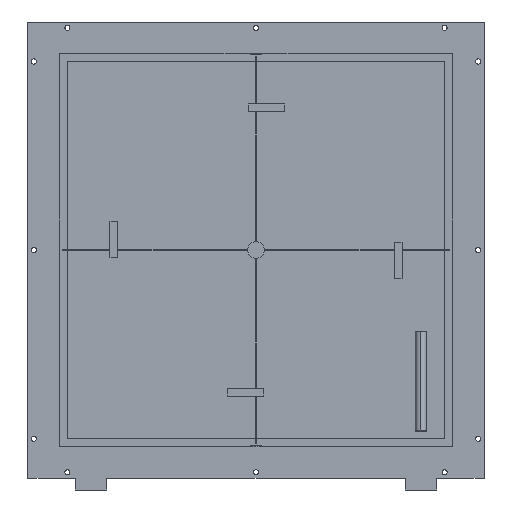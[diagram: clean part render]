
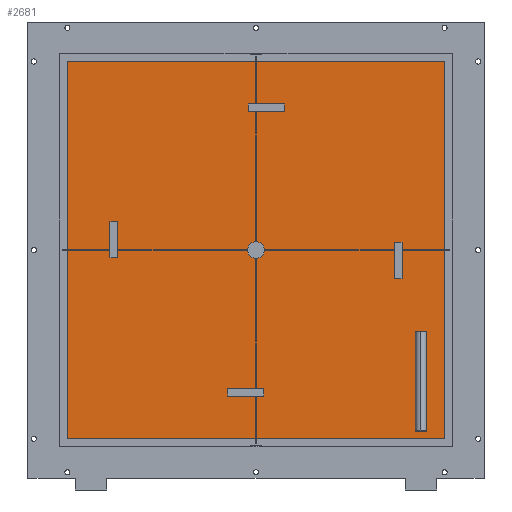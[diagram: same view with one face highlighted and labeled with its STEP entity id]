
A CAD part, front view. The second image highlights one B-rep face of the part: STEP entity #2681.
In plain terms, the highlighted planar face has unit normal (0, -1, 0).
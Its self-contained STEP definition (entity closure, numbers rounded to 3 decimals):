
#204=DIRECTION('',(0.,0.,-1.));
#205=VECTOR('',#204,1036.);
#206=CARTESIAN_POINT('',(518.,77.,518.));
#207=LINE('',#206,#205);
#212=CARTESIAN_POINT('',(0.,77.,0.));
#213=DIRECTION('',(0.,1.,0.));
#214=DIRECTION('',(0.,0.,1.));
#215=AXIS2_PLACEMENT_3D('',#212,#213,#214);
#217=CARTESIAN_POINT('',(0.,77.,0.));
#218=DIRECTION('',(0.,1.,0.));
#219=DIRECTION('',(0.,0.,-1.));
#220=AXIS2_PLACEMENT_3D('',#217,#218,#219);
#222=DIRECTION('',(0.,0.,-1.));
#223=VECTOR('',#222,92.);
#224=CARTESIAN_POINT('',(-370.,77.,72.));
#225=LINE('',#224,#223);
#226=DIRECTION('',(1.,0.,0.));
#227=VECTOR('',#226,20.);
#228=CARTESIAN_POINT('',(-370.,77.,-20.));
#229=LINE('',#228,#227);
#230=DIRECTION('',(0.,0.,1.));
#231=VECTOR('',#230,92.);
#232=CARTESIAN_POINT('',(-350.,77.,-20.));
#233=LINE('',#232,#231);
#234=DIRECTION('',(-1.,0.,0.));
#235=VECTOR('',#234,20.);
#236=CARTESIAN_POINT('',(-350.,77.,72.));
#237=LINE('',#236,#235);
#238=DIRECTION('',(0.,0.,-1.));
#239=VECTOR('',#238,20.);
#240=CARTESIAN_POINT('',(-20.,77.,370.));
#241=LINE('',#240,#239);
#242=DIRECTION('',(1.,0.,0.));
#243=VECTOR('',#242,92.);
#244=CARTESIAN_POINT('',(-20.,77.,350.));
#245=LINE('',#244,#243);
#246=DIRECTION('',(0.,0.,1.));
#247=VECTOR('',#246,20.);
#248=CARTESIAN_POINT('',(72.,77.,350.));
#249=LINE('',#248,#247);
#250=DIRECTION('',(-1.,0.,0.));
#251=VECTOR('',#250,92.);
#252=CARTESIAN_POINT('',(72.,77.,370.));
#253=LINE('',#252,#251);
#254=DIRECTION('',(0.,0.,-1.));
#255=VECTOR('',#254,92.);
#256=CARTESIAN_POINT('',(350.,77.,20.));
#257=LINE('',#256,#255);
#258=DIRECTION('',(1.,0.,0.));
#259=VECTOR('',#258,20.);
#260=CARTESIAN_POINT('',(350.,77.,-72.));
#261=LINE('',#260,#259);
#262=DIRECTION('',(0.,0.,1.));
#263=VECTOR('',#262,92.);
#264=CARTESIAN_POINT('',(370.,77.,-72.));
#265=LINE('',#264,#263);
#266=DIRECTION('',(-1.,0.,0.));
#267=VECTOR('',#266,20.);
#268=CARTESIAN_POINT('',(370.,77.,20.));
#269=LINE('',#268,#267);
#270=DIRECTION('',(-1.,0.,0.));
#271=VECTOR('',#270,92.);
#272=CARTESIAN_POINT('',(20.,77.,-350.));
#273=LINE('',#272,#271);
#274=DIRECTION('',(0.,0.,-1.));
#275=VECTOR('',#274,20.);
#276=CARTESIAN_POINT('',(-72.,77.,-350.));
#277=LINE('',#276,#275);
#278=DIRECTION('',(1.,0.,0.));
#279=VECTOR('',#278,92.);
#280=CARTESIAN_POINT('',(-72.,77.,-370.));
#281=LINE('',#280,#279);
#282=DIRECTION('',(0.,0.,1.));
#283=VECTOR('',#282,20.);
#284=CARTESIAN_POINT('',(20.,77.,-370.));
#285=LINE('',#284,#283);
#286=DIRECTION('',(-1.,0.,0.));
#287=VECTOR('',#286,1036.);
#288=CARTESIAN_POINT('',(518.,77.,-518.));
#289=LINE('',#288,#287);
#294=DIRECTION('',(0.,0.,1.));
#295=VECTOR('',#294,1036.);
#296=CARTESIAN_POINT('',(-518.,77.,-518.));
#297=LINE('',#296,#295);
#302=DIRECTION('',(1.,0.,0.));
#303=VECTOR('',#302,1036.);
#304=CARTESIAN_POINT('',(-518.,77.,518.));
#305=LINE('',#304,#303);
#2007=CARTESIAN_POINT('',(518.,77.,518.));
#2008=CARTESIAN_POINT('',(518.,77.,-518.));
#2009=VERTEX_POINT('',#2007);
#2010=VERTEX_POINT('',#2008);
#2011=CARTESIAN_POINT('',(-518.,77.,-518.));
#2012=VERTEX_POINT('',#2011);
#2013=CARTESIAN_POINT('',(-518.,77.,518.));
#2014=VERTEX_POINT('',#2013);
#2323=CARTESIAN_POINT('',(0.,77.,21.2));
#2324=CARTESIAN_POINT('',(0.,77.,-21.2));
#2325=VERTEX_POINT('',#2323);
#2326=VERTEX_POINT('',#2324);
#2361=CARTESIAN_POINT('',(-370.,77.,72.));
#2362=CARTESIAN_POINT('',(-370.,77.,-20.));
#2363=VERTEX_POINT('',#2361);
#2364=VERTEX_POINT('',#2362);
#2365=CARTESIAN_POINT('',(-350.,77.,-20.));
#2366=VERTEX_POINT('',#2365);
#2367=CARTESIAN_POINT('',(-350.,77.,72.));
#2368=VERTEX_POINT('',#2367);
#2369=CARTESIAN_POINT('',(-20.,77.,370.));
#2370=CARTESIAN_POINT('',(-20.,77.,350.));
#2371=VERTEX_POINT('',#2369);
#2372=VERTEX_POINT('',#2370);
#2373=CARTESIAN_POINT('',(72.,77.,350.));
#2374=VERTEX_POINT('',#2373);
#2375=CARTESIAN_POINT('',(72.,77.,370.));
#2376=VERTEX_POINT('',#2375);
#2377=CARTESIAN_POINT('',(350.,77.,20.));
#2378=CARTESIAN_POINT('',(350.,77.,-72.));
#2379=VERTEX_POINT('',#2377);
#2380=VERTEX_POINT('',#2378);
#2381=CARTESIAN_POINT('',(370.,77.,-72.));
#2382=VERTEX_POINT('',#2381);
#2383=CARTESIAN_POINT('',(370.,77.,20.));
#2384=VERTEX_POINT('',#2383);
#2385=CARTESIAN_POINT('',(20.,77.,-350.));
#2386=CARTESIAN_POINT('',(-72.,77.,-350.));
#2387=VERTEX_POINT('',#2385);
#2388=VERTEX_POINT('',#2386);
#2389=CARTESIAN_POINT('',(-72.,77.,-370.));
#2390=VERTEX_POINT('',#2389);
#2391=CARTESIAN_POINT('',(20.,77.,-370.));
#2392=VERTEX_POINT('',#2391);
#2621=CARTESIAN_POINT('',(0.,77.,0.));
#2622=DIRECTION('',(0.,1.,0.));
#2623=DIRECTION('',(0.,0.,-1.));
#2624=AXIS2_PLACEMENT_3D('',#2621,#2622,#2623);
#2625=PLANE('',#2624);
#2626=ORIENTED_EDGE('',*,*,#2611,.T.);
#2628=ORIENTED_EDGE('',*,*,#2627,.T.);
#2630=ORIENTED_EDGE('',*,*,#2629,.T.);
#2632=ORIENTED_EDGE('',*,*,#2631,.T.);
#2633=EDGE_LOOP('',(#2626,#2628,#2630,#2632));
#2634=FACE_OUTER_BOUND('',#2633,.F.);
#2636=ORIENTED_EDGE('',*,*,#2635,.F.);
#2638=ORIENTED_EDGE('',*,*,#2637,.F.);
#2639=EDGE_LOOP('',(#2636,#2638));
#2640=FACE_BOUND('',#2639,.F.);
#2642=ORIENTED_EDGE('',*,*,#2641,.T.);
#2644=ORIENTED_EDGE('',*,*,#2643,.T.);
#2646=ORIENTED_EDGE('',*,*,#2645,.T.);
#2648=ORIENTED_EDGE('',*,*,#2647,.T.);
#2649=EDGE_LOOP('',(#2642,#2644,#2646,#2648));
#2650=FACE_BOUND('',#2649,.F.);
#2652=ORIENTED_EDGE('',*,*,#2651,.T.);
#2654=ORIENTED_EDGE('',*,*,#2653,.T.);
#2656=ORIENTED_EDGE('',*,*,#2655,.T.);
#2658=ORIENTED_EDGE('',*,*,#2657,.T.);
#2659=EDGE_LOOP('',(#2652,#2654,#2656,#2658));
#2660=FACE_BOUND('',#2659,.F.);
#2662=ORIENTED_EDGE('',*,*,#2661,.T.);
#2664=ORIENTED_EDGE('',*,*,#2663,.T.);
#2666=ORIENTED_EDGE('',*,*,#2665,.T.);
#2668=ORIENTED_EDGE('',*,*,#2667,.T.);
#2669=EDGE_LOOP('',(#2662,#2664,#2666,#2668));
#2670=FACE_BOUND('',#2669,.F.);
#2672=ORIENTED_EDGE('',*,*,#2671,.T.);
#2674=ORIENTED_EDGE('',*,*,#2673,.T.);
#2676=ORIENTED_EDGE('',*,*,#2675,.T.);
#2678=ORIENTED_EDGE('',*,*,#2677,.T.);
#2679=EDGE_LOOP('',(#2672,#2674,#2676,#2678));
#2680=FACE_BOUND('',#2679,.F.);
#216=CIRCLE('',#215,21.2);
#221=CIRCLE('',#220,21.2);
#2611=EDGE_CURVE('',#2009,#2010,#207,.T.);
#2627=EDGE_CURVE('',#2010,#2012,#289,.T.);
#2629=EDGE_CURVE('',#2012,#2014,#297,.T.);
#2631=EDGE_CURVE('',#2014,#2009,#305,.T.);
#2635=EDGE_CURVE('',#2325,#2326,#216,.T.);
#2637=EDGE_CURVE('',#2326,#2325,#221,.T.);
#2641=EDGE_CURVE('',#2363,#2364,#225,.T.);
#2643=EDGE_CURVE('',#2364,#2366,#229,.T.);
#2645=EDGE_CURVE('',#2366,#2368,#233,.T.);
#2647=EDGE_CURVE('',#2368,#2363,#237,.T.);
#2651=EDGE_CURVE('',#2371,#2372,#241,.T.);
#2653=EDGE_CURVE('',#2372,#2374,#245,.T.);
#2655=EDGE_CURVE('',#2374,#2376,#249,.T.);
#2657=EDGE_CURVE('',#2376,#2371,#253,.T.);
#2661=EDGE_CURVE('',#2379,#2380,#257,.T.);
#2663=EDGE_CURVE('',#2380,#2382,#261,.T.);
#2665=EDGE_CURVE('',#2382,#2384,#265,.T.);
#2667=EDGE_CURVE('',#2384,#2379,#269,.T.);
#2671=EDGE_CURVE('',#2387,#2388,#273,.T.);
#2673=EDGE_CURVE('',#2388,#2390,#277,.T.);
#2675=EDGE_CURVE('',#2390,#2392,#281,.T.);
#2677=EDGE_CURVE('',#2392,#2387,#285,.T.);
#2681=ADVANCED_FACE('',(#2634,#2640,#2650,#2660,#2670,#2680),#2625,.F.);
